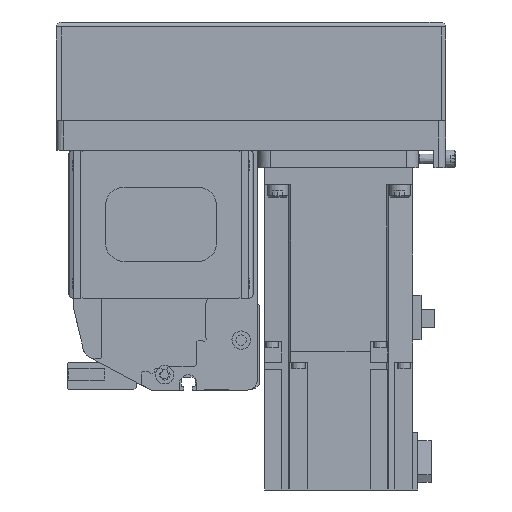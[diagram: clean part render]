
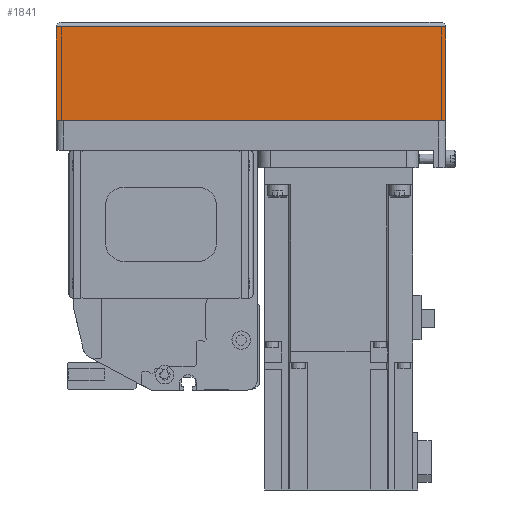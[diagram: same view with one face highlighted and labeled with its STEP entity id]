
A CAD part, left-side view. The second image highlights one B-rep face of the part: STEP entity #1841.
In plain terms, the highlighted planar face has unit normal (-1, 0, 0) as drawn and (0, -1, 0) by its records, which use the part's own axes.
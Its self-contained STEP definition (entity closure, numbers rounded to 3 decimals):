
#1841 = ADVANCED_FACE( '', ( #4551 ), #4552, .T. );
#4551 = FACE_OUTER_BOUND( '', #8354, .T. );
#4552 = PLANE( '', #8355 );
#8354 = EDGE_LOOP( '', ( #13526, #13527, #13528, #13529 ) );
#8355 = AXIS2_PLACEMENT_3D( '', #13530, #13531, #13532 );
#13526 = ORIENTED_EDGE( '', *, *, #22387, .F. );
#13527 = ORIENTED_EDGE( '', *, *, #22388, .F. );
#13528 = ORIENTED_EDGE( '', *, *, #22149, .T. );
#13529 = ORIENTED_EDGE( '', *, *, #22389, .T. );
#13530 = CARTESIAN_POINT( '', ( -158., -39., -12.1 ) );
#13531 = DIRECTION( '', ( 0., -1., 0. ) );
#13532 = DIRECTION( '', ( 0., 0., -1. ) );
#22149 = EDGE_CURVE( '', #25634, #26752, #26754, .T. );
#22387 = EDGE_CURVE( '', #27147, #27148, #27149, .T. );
#22388 = EDGE_CURVE( '', #25634, #27147, #27150, .T. );
#22389 = EDGE_CURVE( '', #26752, #27148, #27151, .T. );
#25634 = VERTEX_POINT( '', #31744 );
#26752 = VERTEX_POINT( '', #33464 );
#26754 = LINE( '', #33467, #33468 );
#27147 = VERTEX_POINT( '', #34077 );
#27148 = VERTEX_POINT( '', #34078 );
#27149 = LINE( '', #34079, #34080 );
#27150 = LINE( '', #34081, #34082 );
#27151 = LINE( '', #34083, #34084 );
#31744 = CARTESIAN_POINT( '', ( -158., -39., -12.1 ) );
#33464 = CARTESIAN_POINT( '', ( -158., -39., -50. ) );
#33467 = CARTESIAN_POINT( '', ( -158., -39., -12.1 ) );
#33468 = VECTOR( '', #40968, 1000. );
#34077 = CARTESIAN_POINT( '', ( 0., -39., -12.1 ) );
#34078 = CARTESIAN_POINT( '', ( 0., -39., -50. ) );
#34079 = CARTESIAN_POINT( '', ( 0., -39., -12.1 ) );
#34080 = VECTOR( '', #41277, 1000. );
#34081 = CARTESIAN_POINT( '', ( -158., -39., -12.1 ) );
#34082 = VECTOR( '', #41278, 1000. );
#34083 = CARTESIAN_POINT( '', ( -158., -39., -50. ) );
#34084 = VECTOR( '', #41279, 1000. );
#40968 = DIRECTION( '', ( 0., 0., -1. ) );
#41277 = DIRECTION( '', ( 0., 0., -1. ) );
#41278 = DIRECTION( '', ( 1., 0., 0. ) );
#41279 = DIRECTION( '', ( 1., 0., 0. ) );
